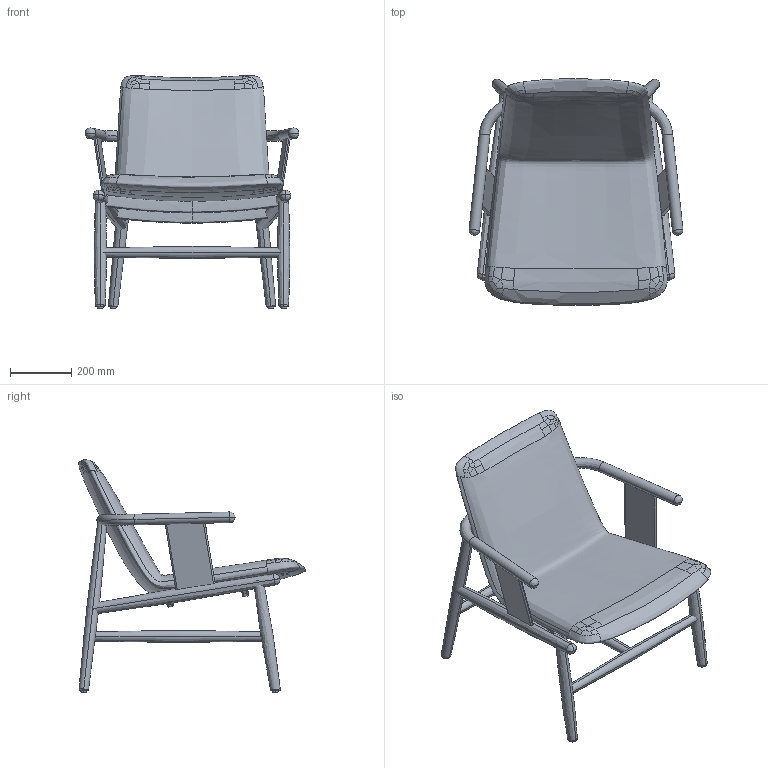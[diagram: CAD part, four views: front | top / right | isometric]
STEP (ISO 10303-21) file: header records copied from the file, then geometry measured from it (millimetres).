
FILE_DESCRIPTION(/* description */ (''),/* implementation_level */ '2;1');
FILE_NAME(/* name */ 'VAN-CH~1',/* time_stamp */ '2022-02-16T11:13:39+08:00',/* author */ (''),/* organization */ (''),/* preprocessor_version */ 'ST-DEVELOPER v16.5',/* originating_system */ '',/* authorisation */ '');
FILE_SCHEMA (('CONFIG_CONTROL_DESIGN'));
Length unit declared in the file: millimetre
Products named in the file (1): Document
Bounding box: 701.32 x 742.39 x 762.96 mm (x, y, z)
Volume: 37572526.4 mm3; surface area: 2027710.9 mm2
Topology: 20 solids, 20 shells, 266 faces, 596 edges, 372 vertices
Faces by surface type: bspline 176, cylinder 56, plane 34
Entity records: 17532 total; most frequent: CARTESIAN_POINT 13710, ORIENTED_EDGE 1192, EDGE_CURVE 596, VERTEX_POINT 372, B_SPLINE_CURVE_WITH_KNOTS 348, EDGE_LOOP 280, ADVANCED_FACE 266, FACE_OUTER_BOUND 266
